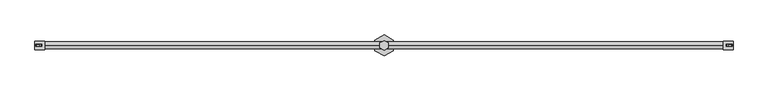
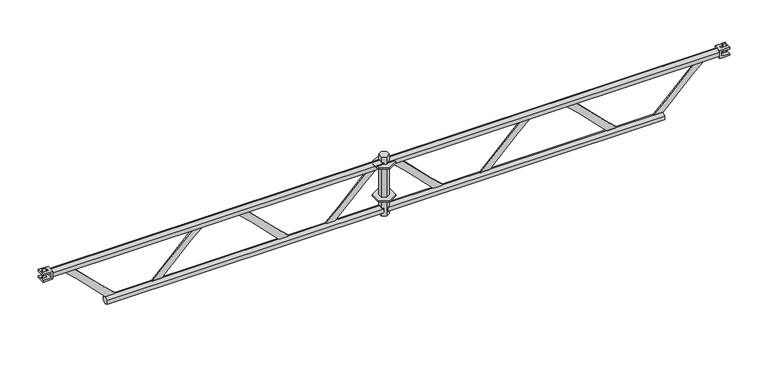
"""IFC4 building model written with IfcOpenShell, lengths in millimetres: proxy geometry, アルバトロスAK2スパンはりわく_軽 : アルバトロスAK2スパンはりわく_軽."""

from ifc_helpers import new_model, si_unit, point, frame, frame_2d, origin, place, context, project, spatial, polyline, circle_curve, trimmed, segment, composite_curve, outline, extrude, faceted_brep, source, transform, mapped, element, save
from ifc_brep_helpers import plane_surface, revolved_surface, advanced_brep


def generic_models_ffb8613f(model_context):
    return source(origin(), model_context, "Body", "SolidModel", [
        faceted_brep([(1850.0444173, -12.15, 45.0), (1850.0444173, 12.15, 45.0), (1829.0, 24.3, 45.0), (1807.9555827, 12.15, 45.0), (1807.9555827, -12.15, 45.0), (1829.0, -24.3, 45.0), (1850.0444173, -12.15, -280.0), (1829.0, -24.3, -280.0), (1807.9555827, -12.15, -280.0), (1807.9555827, 12.15, -280.0), (1829.0, 24.3, -280.0), (1850.0444173, 12.15, -280.0), (1850.0444173, -12.15, 14.3351942), (1850.0444173, 0.0, 21.35), (1850.0444173, 12.15, 14.3351942), (1850.0444173, 12.15, -264.2851942), (1850.0444173, 0.0, -271.3), (1850.0444173, -12.15, -264.2851942), (1850.0444173, 0.0, -21.35), (1850.0444173, -12.15, -14.3351942), (1850.0444173, -12.15, -235.6148058), (1850.0444173, 0.0, -228.6), (1850.0444173, 12.15, -235.6148058), (1850.0444173, 12.15, -14.3351942), (1839.0638346, 18.4896424, 10.675), (1839.0638346, 18.4896424, -10.675), (1839.0638346, 18.4896424, -239.275), (1839.0638346, 18.4896424, -260.625), (1807.9555827, 12.15, -264.2851942), (1818.9361654, 18.4896424, -260.625), (1818.9361654, 18.4896424, -239.275), (1807.9555827, 12.15, -235.6148058), (1807.9555827, 12.15, -14.3351942), (1818.9361654, 18.4896424, -10.675), (1818.9361654, 18.4896424, 10.675), (1807.9555827, 12.15, 14.3351942), (1807.9555827, 0.0, 21.35), (1807.9555827, -12.15, 14.3351942), (1807.9555827, -12.15, -264.2851942), (1807.9555827, 0.0, -271.3), (1807.9555827, -12.15, -14.3351942), (1807.9555827, 0.0, -21.35), (1807.9555827, 0.0, -228.6), (1807.9555827, -12.15, -235.6148058), (1818.9361654, -18.4896424, 10.675), (1818.9361654, -18.4896424, -10.675), (1818.9361654, -18.4896424, -239.275), (1818.9361654, -18.4896424, -260.625), (1839.0638346, -18.4896424, -260.625), (1839.0638346, -18.4896424, -239.275), (1839.0638346, -18.4896424, -10.675), (1839.0638346, -18.4896424, 10.675)], [[[0, 1, 2, 3, 4, 5]], [[6, 7, 8, 9, 10, 11]], [[1, 0, 12, 13, 14]], [[6, 11, 15, 16, 17]], [[18, 19, 20, 21, 22, 23]], [[2, 1, 14, 24, 25, 23, 22, 26, 27, 15, 11, 10]], [[3, 2, 10, 9, 28, 29, 30, 31, 32, 33, 34, 35]], [[4, 3, 35, 36, 37]], [[9, 8, 38, 39, 28]], [[40, 41, 32, 31, 42, 43]], [[5, 4, 37, 44, 45, 40, 43, 46, 47, 38, 8, 7]], [[0, 5, 7, 6, 17, 48, 49, 20, 19, 50, 51, 12]], [[33, 25, 24, 34]], [[34, 24, 14, 13, 36, 35]], [[36, 13, 12, 51, 44, 37]], [[44, 51, 50, 45]], [[45, 50, 19, 18, 41, 40]], [[25, 33, 32, 41, 18, 23]], [[46, 49, 48, 47]], [[47, 48, 17, 16, 39, 38]], [[39, 16, 15, 27, 29, 28]], [[29, 27, 26, 30]], [[30, 26, 22, 21, 42, 31]], [[49, 46, 43, 42, 21, 20]]]),
        extrude(outline(polyline([(1874.8993464, -26.5), (1829.0, -53.0), (1783.1006536, -26.5), (1783.1006536, 26.5), (1829.0, 53.0), (1874.8993464, 26.5), (1874.8993464, -26.5)])), frame((0.0, 0.0, -184.0), z_axis=(0.0, 0.0, 1.0), x_axis=(1.0, 0.0, 0.0)), (0.0, 0.0, 1.0), 8.0),
        extrude(outline(polyline([(1874.8993464, -26.5), (1829.0, -53.0), (1783.1006536, -26.5), (1783.1006536, 26.5), (1829.0, 53.0), (1874.8993464, 26.5), (1874.8993464, -26.5)])), frame((0.0, 0.0, -4.0), z_axis=(0.0, 0.0, 1.0), x_axis=(1.0, 0.0, 0.0)), (0.0, 0.0, 1.0), 8.0),
        faceted_brep([(50.0592, 21.5, -12.0), (92.2817611, 21.5, -12.0), (92.2817611, 21.5, 12.0), (50.0592, 21.5, 12.0), (50.0592, 21.5, 21.5), (100.5, 21.5, 21.5), (100.5, 21.5, -21.5), (50.0592, 21.5, -21.5), (50.0592, -21.5, -12.0), (50.0592, -21.5, -21.5), (100.5, -21.5, -21.5), (100.5, -21.5, 21.5), (50.0592, -21.5, 21.5), (50.0592, -21.5, 12.0), (92.2817611, -21.5, 12.0), (92.2817611, -21.5, -12.0), (78.8, -4.25, -12.0), (54.5935462, -4.25, -12.0), (54.5935462, 4.25, -12.0), (78.8, 4.25, -12.0), (54.5935462, -4.25, 12.0), (85.8, -4.25, 12.0), (85.8, 4.25, 12.0), (54.5935462, 4.25, 12.0), (85.8, -4.25, 21.5), (54.5935462, -4.25, 21.5), (54.5935462, 4.25, 21.5), (85.8, 4.25, 21.5), (54.5935462, -4.25, -21.5), (78.8, -4.25, -21.5), (78.8, 4.25, -21.5), (54.5935462, 4.25, -21.5)], [[[0, 1, 2, 3, 4, 5, 6, 7]], [[8, 9, 10, 11, 12, 13, 14, 15]], [[1, 0, 8, 15], [16, 17, 18, 19]], [[3, 2, 14, 13], [20, 21, 22, 23]], [[4, 3, 13, 12]], [[5, 4, 12, 11], [24, 25, 26, 27]], [[7, 6, 10, 9], [28, 29, 30, 31]], [[0, 7, 9, 8]], [[20, 25, 24, 21]], [[21, 24, 27, 22]], [[22, 27, 26, 23]], [[25, 20, 23, 26]], [[28, 17, 16, 29]], [[29, 16, 19, 30]], [[30, 19, 18, 31]], [[17, 28, 31, 18]], [[2, 1, 15, 14]], [[6, 5, 11, 10]]]),
        extrude(outline(polyline([(58.8, 4.0), (72.6907349, 4.0), (72.6907349, -4.0), (58.8, -4.0), (58.8, 4.0)])), frame((0.0, 0.0, -36.75), z_axis=(0.0, 0.0, 1.0), x_axis=(1.0, 0.0, 0.0)), (0.0, 0.0, 1.0), 73.5),
        faceted_brep([(3607.9408, -21.5, -12.0), (3565.7182389, -21.5, -12.0), (3565.7182389, -21.5, 12.0), (3607.9408, -21.5, 12.0), (3607.9408, -21.5, 21.5), (3557.5, -21.5, 21.5), (3557.5, -21.5, -21.5), (3607.9408, -21.5, -21.5), (3607.9408, 21.5, -12.0), (3607.9408, 21.5, -21.5), (3557.5, 21.5, -21.5), (3557.5, 21.5, 21.5), (3607.9408, 21.5, 21.5), (3607.9408, 21.5, 12.0), (3565.7182389, 21.5, 12.0), (3565.7182389, 21.5, -12.0), (3579.2, 4.25, -12.0), (3603.4064538, 4.25, -12.0), (3603.4064538, -4.25, -12.0), (3579.2, -4.25, -12.0), (3603.4064538, 4.25, 12.0), (3572.2, 4.25, 12.0), (3572.2, -4.25, 12.0), (3603.4064538, -4.25, 12.0), (3572.2, 4.25, 21.5), (3603.4064538, 4.25, 21.5), (3603.4064538, -4.25, 21.5), (3572.2, -4.25, 21.5), (3603.4064538, 4.25, -21.5), (3579.2, 4.25, -21.5), (3579.2, -4.25, -21.5), (3603.4064538, -4.25, -21.5)], [[[0, 1, 2, 3, 4, 5, 6, 7]], [[8, 9, 10, 11, 12, 13, 14, 15]], [[1, 0, 8, 15], [16, 17, 18, 19]], [[3, 2, 14, 13], [20, 21, 22, 23]], [[4, 3, 13, 12]], [[5, 4, 12, 11], [24, 25, 26, 27]], [[7, 6, 10, 9], [28, 29, 30, 31]], [[0, 7, 9, 8]], [[20, 25, 24, 21]], [[21, 24, 27, 22]], [[22, 27, 26, 23]], [[25, 20, 23, 26]], [[28, 17, 16, 29]], [[29, 16, 19, 30]], [[30, 19, 18, 31]], [[17, 28, 31, 18]], [[2, 1, 15, 14]], [[6, 5, 11, 10]]]),
        extrude(outline(polyline([(3599.2, -4.0), (3585.3092651, -4.0), (3585.3092651, 4.0), (3599.2, 4.0), (3599.2, -4.0)])), frame((0.0, 0.0, -36.75), z_axis=(0.0, 0.0, 1.0), x_axis=(1.0, 0.0, 0.0)), (0.0, 0.0, 1.0), 73.5),
        extrude(outline(polyline([(18.4896424, -260.625), (0.0, -271.3), (-18.4896424, -260.625), (-18.4896424, -239.275), (0.0, -228.6), (18.4896424, -239.275), (18.4896424, -260.625)])), frame((1829.0, 0.0, 0.0), z_axis=(1.0, 0.0, 0.0), x_axis=(0.0, 1.0, 0.0)), (0.0, 0.0, 1.0), 1444.1499646),
        extrude(outline(polyline([(18.4896424, -260.675), (0.0, -271.35), (-18.4896424, -260.675), (-18.4896424, -239.325), (0.0, -228.65), (18.4896424, -239.325), (18.4896424, -260.675)])), frame((384.85, 0.0, 0.0), z_axis=(1.0, 0.0, 0.0), x_axis=(0.0, 1.0, 0.0)), (0.0, 0.0, 1.0), 1444.15),
        extrude(outline(composite_curve([segment(trimmed(circle_curve(frame_2d((-645.2601599, -337.2853599)), 804.3367), [point((-27.527903, 177.8499482))], [point((-76.508225, 231.466575))], True, "CARTESIAN"), True, "CONTINUOUS"), segment(polyline([(-76.508225, 231.466575), (-229.89165, 384.85), (-249.95, 384.85), (-249.95, 429.8500018), (-222.1720512, 429.8500018)]), True, "CONTINUOUS"), segment(trimmed(circle_curve(frame_2d((395.5601849, 944.9853349)), 804.3367), [point((-222.1720512, 429.8500018))], [point((-173.19175, 376.2334))], True, "CARTESIAN"), True, "CONTINUOUS"), segment(polyline([(-173.19175, 376.2334), (-19.8083518, 222.8500018), (0.0, 222.8500018), (0.0, 177.8499482), (-27.527903, 177.8499482)]), True, "CONTINUOUS")], self_intersect=False)), frame((0.0, -2.5, 0.0), z_axis=(0.0, 1.0, 0.0), x_axis=(0.0, 0.0, 1.0)), (0.0, 0.0, 1.0), 5.0),
        advanced_brep(
        [(3557.5, 18.4896424, -10.675), (3557.5, 18.4896424, 10.675), (3557.5, 0.0, 21.35), (3557.5, -18.4896424, 10.675), (3557.5, -18.4896424, -10.675), (3557.5, 0.0, -21.35), (1829.0, 18.4896424, -10.675), (1829.0, 0.0, -21.35), (1829.0, -18.4896424, -10.675), (1829.0, -18.4896424, 10.675), (1829.0, 0.0, 21.35), (1829.0, 18.4896424, 10.675), (1873.3, 18.4896424, 4.5), (1873.3, -18.4896424, 4.5), (1838.3, -18.4896424, 4.5), (1838.3, 18.4896424, 4.5), (1873.3, 18.4896424, -4.5), (1873.3, -18.4896424, -4.5), (1838.3, 18.4896424, -4.5), (1838.3, -18.4896424, -4.5)],
        [
            (0, 1),
            (1, 2),
            (2, 3),
            (3, 4),
            (4, 5),
            (5, 0),
            (6, 7),
            (7, 8),
            (8, 9),
            (9, 10),
            (10, 11),
            (11, 6),
            (12, 13),
            (13, 14),
            (14, 15),
            (15, 12),
            (12, 16, circle_curve(frame((1873.3, 18.4896424, 0.0), z_axis=(0.0, 1.0, 0.0), x_axis=(-1.0, 0.0, 0.0)), 4.5)),
            (16, 17),
            (17, 13, circle_curve(frame((1873.3, -18.4896424, 0.0), z_axis=(0.0, -1.0, 0.0), x_axis=(-1.0, 0.0, 0.0)), 4.5)),
            (16, 18),
            (18, 19),
            (19, 17),
            (18, 15),
            (14, 19),
            (0, 6),
            (11, 1),
            (10, 2),
            (9, 3),
            (8, 4),
            (7, 5),
        ],
        [
            plane_surface(frame((3557.5, 18.4896424, -10.675), z_axis=(1.0, 0.0, 0.0), x_axis=(0.0, 0.0, 1.0))),
            plane_surface(frame((1829.0, 18.4896424, -10.675), z_axis=(-1.0, 0.0, 0.0), x_axis=(0.0, 0.0, -1.0))),
            plane_surface(frame((1873.3, -25.03115, 4.5), z_axis=(2.6609208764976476e-11, 0.0, -1.0), x_axis=(0.0, 1.0, 0.0))),
            revolved_surface(polyline([(1868.8, -18.4896424, 0.0), (1868.8, 18.4896424, 0.0)]), (1873.3, 25.0312, 0.0), (0.0, -1.0, 0.0)),
            plane_surface(frame((1838.3, -25.03115, -4.5), z_axis=(0.0, 0.0, 1.0), x_axis=(0.0, 1.0, 0.0))),
            plane_surface(frame((1838.3, -25.03115, 4.5), z_axis=(1.0, 0.0, 0.0), x_axis=(0.0, 1.0, 0.0))),
            plane_surface(frame((3557.5, 18.4896424, -10.675), z_axis=(0.0, 1.0, 0.0), x_axis=(-1.0, 0.0, 0.0))),
            plane_surface(frame((3557.5, 18.4896424, 10.675), z_axis=(0.0, 0.5000000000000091, 0.8660254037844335), x_axis=(-1.0, 0.0, 0.0))),
            plane_surface(frame((3557.5, 0.0, 21.35), z_axis=(0.0, -0.49999999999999, 0.8660254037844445), x_axis=(-1.0, 0.0, 0.0))),
            plane_surface(frame((3557.5, -18.4896424, 10.675), z_axis=(0.0, -1.0, 0.0), x_axis=(-1.0, 0.0, 0.0))),
            plane_surface(frame((3557.5, -18.4896424, -10.675), z_axis=(0.0, -0.5000000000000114, -0.8660254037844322), x_axis=(-1.0, 0.0, 0.0))),
            plane_surface(frame((3557.5, 0.0, -21.35), z_axis=(0.0, 0.49999999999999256, -0.866025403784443), x_axis=(-1.0, 0.0, 0.0))),
        ],
        [
            (0, [[1, 2, 3, 4, 5, 6]]),
            (1, [[7, 8, 9, 10, 11, 12]]),
            (2, [[13, 14, 15, 16]]),
            (3, [[-13, 17, 18, 19]]),
            (4, [[-18, 20, 21, 22]]),
            (5, [[-21, 23, -15, 24]]),
            (6, [[-1, 25, -12, 26], [-16, -23, -20, -17]]),
            (7, [[-2, -26, -11, 27]]),
            (8, [[-3, -27, -10, 28]]),
            (9, [[-4, -28, -9, 29], [-14, -19, -22, -24]]),
            (10, [[-5, -29, -8, 30]]),
            (11, [[-6, -30, -7, -25]]),
        ],
    ),
        advanced_brep(
        [(1829.0, 18.4896424, -10.675), (1829.0, 18.4896424, 10.675), (1829.0, 0.0, 21.35), (1829.0, -18.4896424, 10.675), (1829.0, -18.4896424, -10.675), (1829.0, 0.0, -21.35), (100.5, 18.4896424, -10.675), (100.5, 0.0, -21.35), (100.5, -18.4896424, -10.675), (100.5, -18.4896424, 10.675), (100.5, 0.0, 21.35), (100.5, 18.4896424, 10.675), (1819.7, 18.4896424, 4.5), (1819.7, -18.4896424, 4.5), (1784.7, -18.4896424, 4.5), (1784.7, 18.4896424, 4.5), (1784.7, -18.4896424, -4.5), (1784.7, 18.4896424, -4.5), (1819.7, -18.4896424, -4.5), (1819.7, 18.4896424, -4.5)],
        [
            (0, 1),
            (1, 2),
            (2, 3),
            (3, 4),
            (4, 5),
            (5, 0),
            (6, 7),
            (7, 8),
            (8, 9),
            (9, 10),
            (10, 11),
            (11, 6),
            (12, 13),
            (13, 14),
            (14, 15),
            (15, 12),
            (14, 16, circle_curve(frame((1784.7, -18.4896424, 0.0), z_axis=(0.0, -1.0, 0.0), x_axis=(1.0, 0.0, 0.0)), 4.5)),
            (16, 17),
            (17, 15, circle_curve(frame((1784.7, 18.4896424, 0.0), z_axis=(0.0, 1.0, 0.0), x_axis=(1.0, 0.0, 0.0)), 4.5)),
            (16, 18),
            (18, 19),
            (19, 17),
            (12, 19),
            (18, 13),
            (0, 6),
            (11, 1),
            (10, 2),
            (9, 3),
            (8, 4),
            (7, 5),
        ],
        [
            plane_surface(frame((1829.0, 18.4896424, -10.675), z_axis=(1.0, 0.0, 0.0), x_axis=(0.0, 0.0, 1.0))),
            plane_surface(frame((100.5, 18.4896424, -10.675), z_axis=(-1.0, 0.0, 0.0), x_axis=(0.0, 0.0, -1.0))),
            plane_surface(frame((1819.7, -25.03115, 4.5), z_axis=(-2.6609208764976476e-11, 0.0, -1.0), x_axis=(0.0, 1.0, 0.0))),
            revolved_surface(polyline([(1789.2, -18.4896424, 0.0), (1789.2, 18.4896424, 0.0)]), (1784.7, 25.0312, 0.0), (0.0, -1.0, 0.0)),
            plane_surface(frame((1784.7, -25.03115, -4.5), z_axis=(0.0, 0.0, 1.0), x_axis=(0.0, 1.0, 0.0))),
            plane_surface(frame((1819.7, -25.03115, -4.5), z_axis=(-1.0, 0.0, 0.0), x_axis=(0.0, 1.0, 0.0))),
            plane_surface(frame((1829.0, 18.4896424, -10.675), z_axis=(0.0, 1.0, 0.0), x_axis=(-1.0, 0.0, 0.0))),
            plane_surface(frame((1829.0, 18.4896424, 10.675), z_axis=(0.0, 0.5000000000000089, 0.8660254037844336), x_axis=(-1.0, 0.0, 0.0))),
            plane_surface(frame((1829.0, 0.0, 21.35), z_axis=(0.0, -0.4999999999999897, 0.8660254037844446), x_axis=(-1.0, 0.0, 0.0))),
            plane_surface(frame((1829.0, -18.4896424, 10.675), z_axis=(0.0, -1.0, 0.0), x_axis=(-1.0, 0.0, 0.0))),
            plane_surface(frame((1829.0, -18.4896424, -10.675), z_axis=(0.0, -0.5000000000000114, -0.8660254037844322), x_axis=(-1.0, 0.0, 0.0))),
            plane_surface(frame((1829.0, 0.0, -21.35), z_axis=(0.0, 0.4999999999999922, -0.8660254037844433), x_axis=(-1.0, 0.0, 0.0))),
        ],
        [
            (0, [[1, 2, 3, 4, 5, 6]]),
            (1, [[7, 8, 9, 10, 11, 12]]),
            (2, [[13, 14, 15, 16]]),
            (3, [[-15, 17, 18, 19]]),
            (4, [[-18, 20, 21, 22]]),
            (5, [[-13, 23, -21, 24]]),
            (6, [[-1, 25, -12, 26], [-16, -19, -22, -23]]),
            (7, [[-2, -26, -11, 27]]),
            (8, [[-3, -27, -10, 28]]),
            (9, [[-4, -28, -9, 29], [-14, -24, -20, -17]]),
            (10, [[-5, -29, -8, 30]]),
            (11, [[-6, -30, -7, -25]]),
        ],
    ),
        extrude(outline(composite_curve([segment(polyline([(-27.5279201, 880.1499813), (-1.71e-05, 880.1499813), (-1.71e-05, 835.1499278), (-19.8083689, 835.1499278), (-173.1917671, 681.7665296)]), True, "CONTINUOUS"), segment(trimmed(circle_curve(frame_2d((395.5601678, 113.0145946)), 804.3367), [point((-173.1917671, 681.7665296))], [point((-222.1720683, 628.1499278))], True, "CARTESIAN"), True, "CONTINUOUS"), segment(polyline([(-222.1720683, 628.1499278), (-249.9500171, 628.1499278), (-249.9500171, 673.1499295), (-229.8916671, 673.1499295), (-76.5082421, 826.5333545)]), True, "CONTINUOUS"), segment(trimmed(circle_curve(frame_2d((-645.260177, 1395.2852894)), 804.3367), [point((-76.5082421, 826.5333545))], [point((-27.5279201, 880.1499813))], True, "CARTESIAN"), True, "CONTINUOUS")], self_intersect=False)), frame((0.0, -2.5, 0.0), z_axis=(0.0, 1.0, 0.0), x_axis=(0.0, 0.0, 1.0)), (0.0, 0.0, 1.0), 5.0),
        extrude(outline(composite_curve([segment(trimmed(circle_curve(frame_2d((-645.2601623, 562.7146772)), 804.3367), [point((-27.5279054, 1077.8499853))], [point((-76.5082274, 1131.4666121))], True, "CARTESIAN"), True, "CONTINUOUS"), segment(polyline([(-76.5082274, 1131.4666121), (-229.8916524, 1284.8500371), (-249.9500024, 1284.8500371), (-249.9500024, 1329.8500389), (-222.1720536, 1329.8500389)]), True, "CONTINUOUS"), segment(trimmed(circle_curve(frame_2d((395.5601825, 1844.985372)), 804.3367), [point((-222.1720536, 1329.8500389))], [point((-173.1917524, 1276.2334371))], True, "CARTESIAN"), True, "CONTINUOUS"), segment(polyline([(-173.1917524, 1276.2334371), (-19.8083542, 1122.8500389), (-2.4e-06, 1122.8500389), (-2.4e-06, 1077.8499853), (-27.5279054, 1077.8499853)]), True, "CONTINUOUS")], self_intersect=False)), frame((0.0, -2.5, 0.0), z_axis=(0.0, 1.0, 0.0), x_axis=(0.0, 0.0, 1.0)), (0.0, 0.0, 1.0), 5.0),
        extrude(outline(composite_curve([segment(polyline([(-27.5279225, 1780.1500184), (-1.95e-05, 1780.1500184), (-1.95e-05, 1735.1499649), (-19.8083713, 1735.1499649), (-173.1917695, 1581.7665667)]), True, "CONTINUOUS"), segment(trimmed(circle_curve(frame_2d((395.5601654, 1013.0146317)), 804.3367), [point((-173.1917695, 1581.7665667))], [point((-222.1720707, 1528.1499649))], True, "CARTESIAN"), True, "CONTINUOUS"), segment(polyline([(-222.1720707, 1528.1499649), (-249.9500195, 1528.1499649), (-249.9500195, 1573.1499666), (-229.8916695, 1573.1499666), (-76.5082445, 1726.5333916)]), True, "CONTINUOUS"), segment(trimmed(circle_curve(frame_2d((-645.2601794, 2295.2853265)), 804.3367), [point((-76.5082445, 1726.5333916))], [point((-27.5279225, 1780.1500184))], True, "CARTESIAN"), True, "CONTINUOUS")], self_intersect=False)), frame((0.0, -2.5, 0.0), z_axis=(0.0, 1.0, 0.0), x_axis=(0.0, 0.0, 1.0)), (0.0, 0.0, 1.0), 5.0),
        extrude(outline(composite_curve([segment(trimmed(circle_curve(frame_2d((-645.2601599, 1362.7146401)), 804.3367), [point((-27.527903, 1877.8499482))], [point((-76.508225, 1931.466575))], True, "CARTESIAN"), True, "CONTINUOUS"), segment(polyline([(-76.508225, 1931.466575), (-229.89165, 2084.85), (-249.95, 2084.85), (-249.95, 2129.8500018), (-222.1720512, 2129.8500018)]), True, "CONTINUOUS"), segment(trimmed(circle_curve(frame_2d((395.5601849, 2644.9853349)), 804.3367), [point((-222.1720512, 2129.8500018))], [point((-173.19175, 2076.2334))], True, "CARTESIAN"), True, "CONTINUOUS"), segment(polyline([(-173.19175, 2076.2334), (-19.8083518, 1922.8500018), (0.0, 1922.8500018), (0.0, 1877.8499482), (-27.527903, 1877.8499482)]), True, "CONTINUOUS")], self_intersect=False)), frame((0.0, -2.5, 0.0), z_axis=(0.0, 1.0, 0.0), x_axis=(0.0, 0.0, 1.0)), (0.0, 0.0, 1.0), 5.0),
        extrude(outline(composite_curve([segment(polyline([(-27.5279201, 2580.1499813), (-1.71e-05, 2580.1499813), (-1.71e-05, 2535.1499278), (-19.8083689, 2535.1499278), (-173.1917671, 2381.7665296)]), True, "CONTINUOUS"), segment(trimmed(circle_curve(frame_2d((395.5601678, 1813.0145946)), 804.3367), [point((-173.1917671, 2381.7665296))], [point((-222.1720683, 2328.1499278))], True, "CARTESIAN"), True, "CONTINUOUS"), segment(polyline([(-222.1720683, 2328.1499278), (-249.9500171, 2328.1499278), (-249.9500171, 2373.1499278), (-229.8916689, 2373.1499278), (-76.5082421, 2526.5333545)]), True, "CONTINUOUS"), segment(trimmed(circle_curve(frame_2d((-645.260177, 3095.2852894)), 804.3367), [point((-76.5082421, 2526.5333545))], [point((-27.5279201, 2580.1499813))], True, "CARTESIAN"), True, "CONTINUOUS")], self_intersect=False)), frame((0.0, -2.5, 0.0), z_axis=(0.0, 1.0, 0.0), x_axis=(0.0, 0.0, 1.0)), (0.0, 0.0, 1.0), 5.0),
        extrude(outline(composite_curve([segment(trimmed(circle_curve(frame_2d((-645.2601599, 2262.7146752)), 804.3367), [point((-27.527903, 2777.8499833))], [point((-76.508225, 2831.4666101))], True, "CARTESIAN"), True, "CONTINUOUS"), segment(polyline([(-76.508225, 2831.4666101), (-229.89165, 2984.8500351), (-249.95, 2984.8500351), (-249.95, 3029.8500368), (-222.1720512, 3029.8500368)]), True, "CONTINUOUS"), segment(trimmed(circle_curve(frame_2d((395.5601849, 3544.98537)), 804.3367), [point((-222.1720512, 3029.8500368))], [point((-173.19175, 2976.233435))], True, "CARTESIAN"), True, "CONTINUOUS"), segment(polyline([(-173.19175, 2976.233435), (-19.8083518, 2822.8500368), (0.0, 2822.8500368), (0.0, 2777.8499833), (-27.527903, 2777.8499833)]), True, "CONTINUOUS")], self_intersect=False)), frame((0.0, -2.5, 0.0), z_axis=(0.0, 1.0, 0.0), x_axis=(0.0, 0.0, 1.0)), (0.0, 0.0, 1.0), 5.0),
        extrude(outline(composite_curve([segment(polyline([(-27.5279201, 3480.1500163), (-1.71e-05, 3480.1500163), (-1.71e-05, 3435.1499628), (-19.8083689, 3435.1499628), (-173.1917671, 3281.7665646)]), True, "CONTINUOUS"), segment(trimmed(circle_curve(frame_2d((395.5601678, 2713.0146297)), 804.3367), [point((-173.1917671, 3281.7665646))], [point((-222.1720683, 3228.1499628))], True, "CARTESIAN"), True, "CONTINUOUS"), segment(polyline([(-222.1720683, 3228.1499628), (-249.9500171, 3228.1499628), (-249.9500171, 3273.1499646), (-229.8916671, 3273.1499646), (-76.5082421, 3426.5333896)]), True, "CONTINUOUS"), segment(trimmed(circle_curve(frame_2d((-645.260177, 3995.2853245)), 804.3367), [point((-76.5082421, 3426.5333896))], [point((-27.5279201, 3480.1500163))], True, "CARTESIAN"), True, "CONTINUOUS")], self_intersect=False)), frame((0.0, -2.5, 0.0), z_axis=(0.0, 1.0, 0.0), x_axis=(0.0, 0.0, 1.0)), (0.0, 0.0, 1.0), 5.0),
    ])


if __name__ == "__main__":
    model = new_model("IFC4")
    model_context = context("Model", 3, world=origin())
    ifc_project = project(units=[si_unit("LENGTHUNIT", "METRE", prefix="MILLI")], contexts=[model_context])
    site = spatial("IfcSite", under=ifc_project)
    building = spatial("IfcBuilding", under=site)
    placement = place(None, origin())
    generic_models_shape = generic_models_ffb8613f(model_context)
    element("IfcBuildingElementProxy", 1, Name="アルバトロスAK2スパンはりわく_軽 : アルバトロスAK2スパンはりわく_軽", ObjectType="アルバトロスAK2スパンはりわく_軽 : アルバトロスAK2スパンはりわく_軽", at=placement, inside=building, context=model_context, shape_type="MappedRepresentation", body=[
        mapped(generic_models_shape, transform((0.0, 0.0, 0.0), x_axis=(1.0, 0.0, 0.0), y_axis=(0.0, 1.0, 0.0), z_axis=(0.0, 0.0, 1.0))),
    ])
    save(model, "model.ifc")
